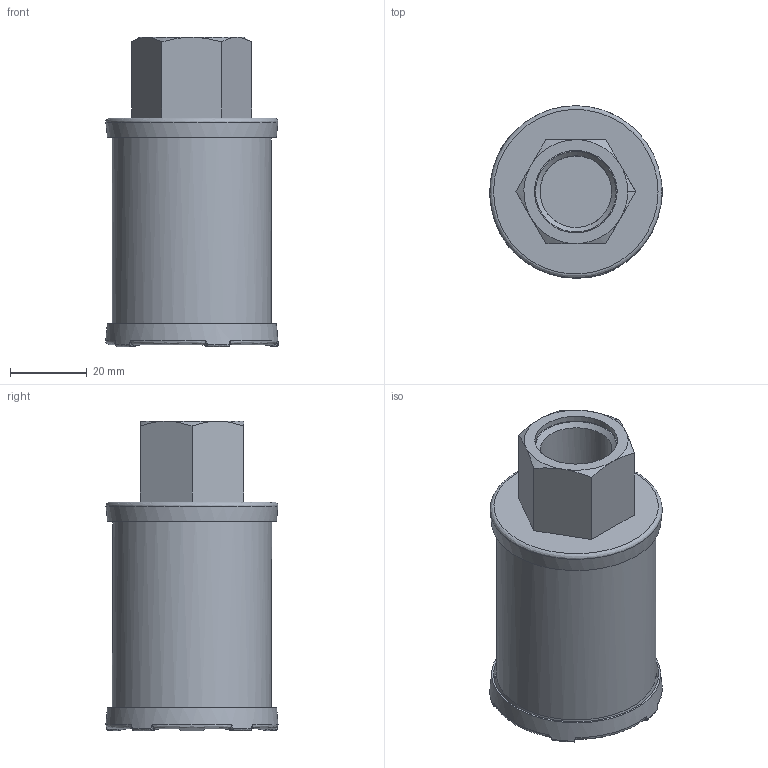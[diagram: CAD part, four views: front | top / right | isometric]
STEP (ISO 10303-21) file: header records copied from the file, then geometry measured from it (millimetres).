
FILE_DESCRIPTION((''),'2;1');
FILE_NAME('U:\Users\t.schleuter\14485000(239886).stp', '2013-04-12T08:52:06',('User'),('SDRC'),'I-DEAS Master Series 9','UNIX', 'Yes');
FILE_SCHEMA(('CONFIG_CONTROL_DESIGN', 'GEOMETRIC_VALIDATION_PROPERTIES_MIM','SHAPE_APPEARANCE_LAYER_MIM'));
Length unit declared in the file: millimetre
Bounding box: 44.9 x 44.8 x 80.5 mm (x, y, z)
Volume: 88862.6 mm3; surface area: 16799.1 mm2
Topology: 1 solids, 2 shells, 97 faces, 236 edges, 149 vertices
Faces by surface type: bspline 97
Entity records: 3930 total; most frequent: CARTESIAN_POINT 2459, ORIENTED_EDGE 472, EDGE_CURVE 236, VERTEX_POINT 148, B_SPLINE_CURVE_WITH_KNOTS 122, EDGE_LOOP 104, FACE_OUTER_BOUND 97, ADVANCED_FACE 97
